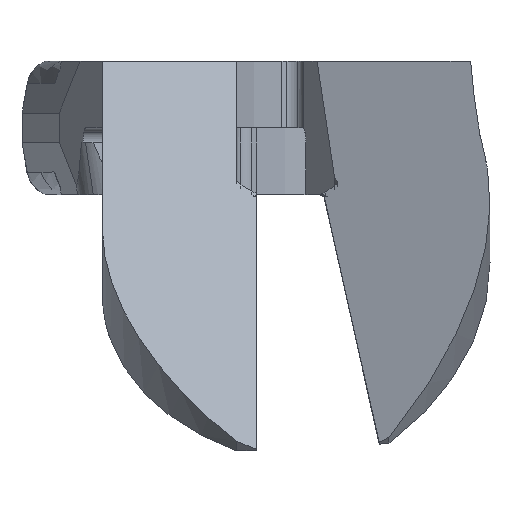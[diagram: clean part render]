
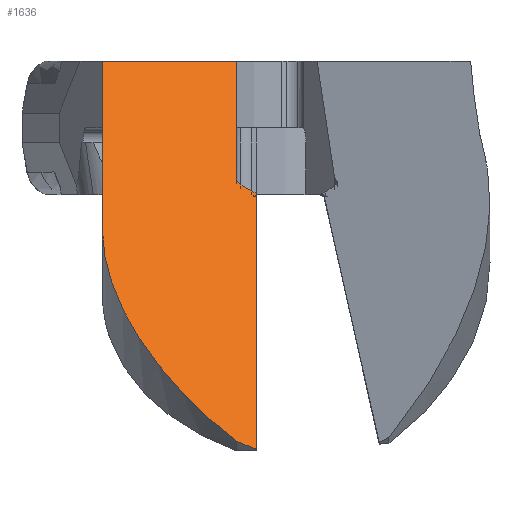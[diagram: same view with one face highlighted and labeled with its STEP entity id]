
A CAD part, left-side view. The second image highlights one B-rep face of the part: STEP entity #1636.
In plain terms, the highlighted planar face has unit normal (-0.612, -0.5, 0.612).
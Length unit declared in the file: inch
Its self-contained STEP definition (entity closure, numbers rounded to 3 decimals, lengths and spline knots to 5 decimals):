
#1015=CARTESIAN_POINT('',(-0.11422,1.48008,0.416));
#1016=VERTEX_POINT('',#1015);
#1017=CARTESIAN_POINT('',(-0.46183,1.48008,0.0684));
#1018=VERTEX_POINT('',#1017);
#1019=CARTESIAN_POINT('',(-0.11422,1.48008,0.416));
#1020=DIRECTION('',(-0.707,0.0,-0.707));
#1021=VECTOR('',#1020,0.49159);
#1022=LINE('',#1019,#1021);
#1023=EDGE_CURVE('',#1016,#1018,#1022,.T.);
#1116=CARTESIAN_POINT('',(0.10869,1.20708,0.416));
#1117=VERTEX_POINT('',#1116);
#1118=CARTESIAN_POINT('',(-0.11422,1.48008,0.416));
#1119=DIRECTION('',(0.632,-0.775,0.0));
#1120=VECTOR('',#1119,0.35244);
#1121=LINE('',#1118,#1120);
#1122=EDGE_CURVE('',#1016,#1117,#1121,.T.);
#1164=CARTESIAN_POINT('',(-0.13422,1.20708,0.1731));
#1165=VERTEX_POINT('',#1164);
#1166=CARTESIAN_POINT('',(0.10869,1.20708,0.416));
#1167=DIRECTION('',(-0.707,0.0,-0.707));
#1168=VECTOR('',#1167,0.34351);
#1169=LINE('',#1166,#1168);
#1170=EDGE_CURVE('',#1117,#1165,#1169,.T.);
#1316=CARTESIAN_POINT('',(-0.13646,1.19829,0.16369));
#1317=VERTEX_POINT('',#1316);
#1318=CARTESIAN_POINT('',(-0.13422,1.20708,0.1731));
#1319=CARTESIAN_POINT('',(-0.13447,1.20708,0.17286));
#1320=CARTESIAN_POINT('',(-0.13469,1.20702,0.17259));
#1321=CARTESIAN_POINT('',(-0.1351,1.20683,0.17202));
#1322=CARTESIAN_POINT('',(-0.13529,1.20668,0.1717));
#1323=CARTESIAN_POINT('',(-0.13585,1.20606,0.17064));
#1324=CARTESIAN_POINT('',(-0.13611,1.20543,0.16987));
#1325=CARTESIAN_POINT('',(-0.13675,1.20298,0.16723));
#1326=CARTESIAN_POINT('',(-0.13668,1.20051,0.16527));
#1327=CARTESIAN_POINT('',(-0.13646,1.19829,0.16369));
#1328=B_SPLINE_CURVE_WITH_KNOTS('',3,(#1318,#1319,#1320,#1321,#1322,#1323,#1324,#1325,#1326,#1327),.UNSPECIFIED.,.F.,.U.,(4,2,2,2,4),(-0.0134,-0.01234,-0.01114,-0.00821,0.0),.UNSPECIFIED.);
#1329=EDGE_CURVE('',#1165,#1317,#1328,.T.);
#1529=CARTESIAN_POINT('',(-0.13142,1.17708,0.15141));
#1530=VERTEX_POINT('',#1529);
#1531=CARTESIAN_POINT('',(-0.13646,1.19829,0.16369));
#1532=CARTESIAN_POINT('',(-0.13615,1.1952,0.16148));
#1533=CARTESIAN_POINT('',(-0.13546,1.19177,0.15937));
#1534=CARTESIAN_POINT('',(-0.13376,1.18479,0.15537));
#1535=CARTESIAN_POINT('',(-0.13261,1.18086,0.15331));
#1536=CARTESIAN_POINT('',(-0.13142,1.17708,0.15141));
#1537=B_SPLINE_CURVE_WITH_KNOTS('',3,(#1531,#1532,#1533,#1534,#1535,#1536),.UNSPECIFIED.,.F.,.U.,(4,2,4),(-0.02463,-0.0132,0.0),.UNSPECIFIED.);
#1538=EDGE_CURVE('',#1317,#1530,#1537,.T.);
#1556=CARTESIAN_POINT('',(-0.12827,1.16708,0.14639));
#1557=VERTEX_POINT('',#1556);
#1558=CARTESIAN_POINT('',(-0.13142,1.17708,0.15141));
#1559=DIRECTION('',(0.271,-0.86,-0.432));
#1560=VECTOR('',#1559,0.01162);
#1561=LINE('',#1558,#1560);
#1562=EDGE_CURVE('',#1530,#1557,#1561,.T.);
#1600=CARTESIAN_POINT('',(-0.59254,1.45636,-0.08166));
#1601=DIRECTION('',(-0.612,-0.5,0.612));
#1602=DIRECTION('',(0.707,0.,0.707));
#1603=AXIS2_PLACEMENT_3D('',#1600,#1601,#1602);
#1604=PLANE('',#1603);
#1605=ORIENTED_EDGE('',*,*,#1023,.T.);
#1606=CARTESIAN_POINT('',(-0.66541,1.20708,-0.35806));
#1607=VERTEX_POINT('',#1606);
#1608=CARTESIAN_POINT('',(-0.25771,0.98008,-0.13573));
#1609=DIRECTION('',(-0.612,-0.5,0.612));
#1610=DIRECTION('',(0.354,-0.866,-0.354));
#1611=AXIS2_PLACEMENT_3D('',#1608,#1609,#1610);
#1612=ELLIPSE('',#1611,0.57735,0.5);
#1613=EDGE_CURVE('',#1018,#1607,#1612,.T.);
#1614=ORIENTED_EDGE('',*,*,#1613,.T.);
#1615=CARTESIAN_POINT('',(-0.64908,1.16708,-0.37439));
#1616=VERTEX_POINT('',#1615);
#1617=CARTESIAN_POINT('',(-0.66541,1.20708,-0.35806));
#1618=DIRECTION('',(0.354,-0.866,-0.354));
#1619=VECTOR('',#1618,0.04619);
#1620=LINE('',#1617,#1619);
#1621=EDGE_CURVE('',#1607,#1616,#1620,.T.);
#1622=ORIENTED_EDGE('',*,*,#1621,.T.);
#1623=CARTESIAN_POINT('',(-0.12827,1.16708,0.14639));
#1624=DIRECTION('',(-0.707,0.0,-0.707));
#1625=VECTOR('',#1624,0.73651);
#1626=LINE('',#1623,#1625);
#1627=EDGE_CURVE('',#1557,#1616,#1626,.T.);
#1628=ORIENTED_EDGE('',*,*,#1627,.F.);
#1629=ORIENTED_EDGE('',*,*,#1562,.F.);
#1630=ORIENTED_EDGE('',*,*,#1538,.F.);
#1631=ORIENTED_EDGE('',*,*,#1329,.F.);
#1632=ORIENTED_EDGE('',*,*,#1170,.F.);
#1633=ORIENTED_EDGE('',*,*,#1122,.F.);
#1634=EDGE_LOOP('',(#1605,#1614,#1622,#1628,#1629,#1630,#1631,#1632,#1633));
#1635=FACE_OUTER_BOUND('',#1634,.T.);
#1636=ADVANCED_FACE('',(#1635),#1604,.T.);
